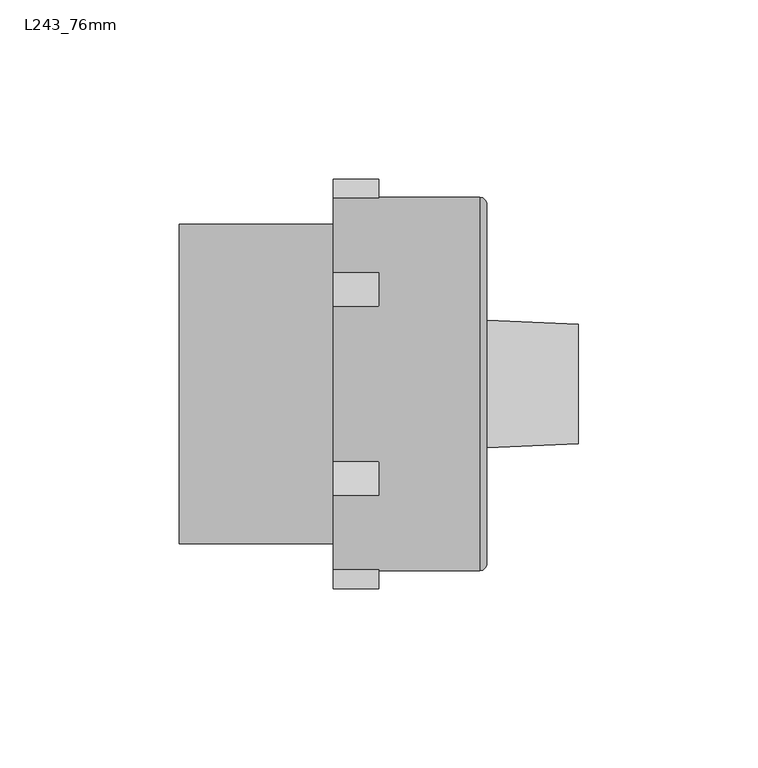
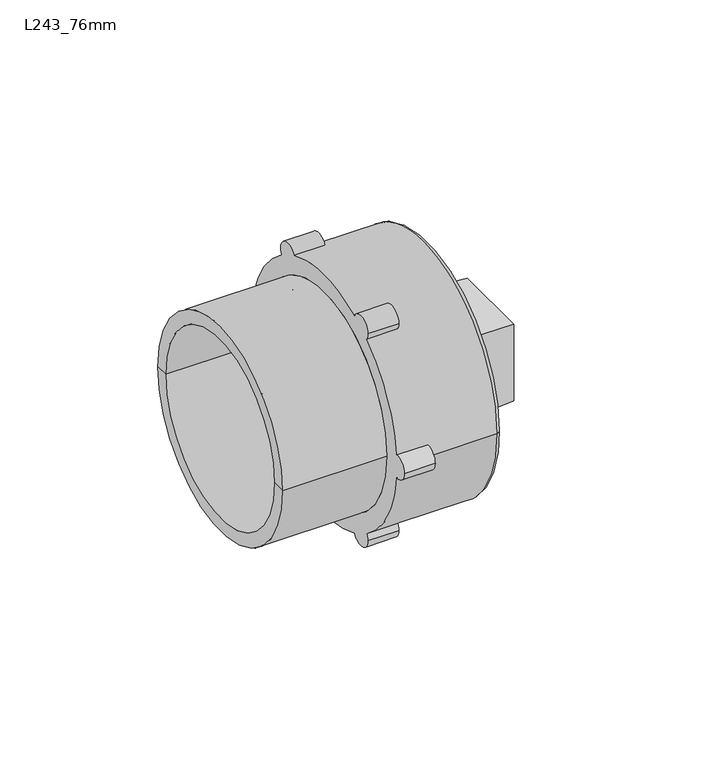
"""IFC4 building model written with IfcOpenShell, lengths in millimetres: pipe fitting geometry, Durapipe_PipeFitting_VulcatheneEnfusion_CleanoutPlug_L24 : L243_76mm."""

from ifc_helpers import new_model, si_unit, point, frame, origin, place, context, project, spatial, polyline, circle_curve, ellipse_curve, trimmed, source, transform, mapped, element, save
from ifc_brep_helpers import plane_surface, cylinder_surface, revolved_surface, advanced_brep


def l243_76mm_0481b0c5(model_context):
    return source(origin(), model_context, "Body", "AdvancedBrep", [
        advanced_brep(
        [(28.15, 52.0, 0.0), (28.15, -52.0, 0.0), (-0.05, -52.0, 0.0), (-0.05, -51.7596154, -4.9942182), (-12.75, -51.7596154, -4.9942182), (-12.75, -30.2049275, -42.3280327), (-0.05, -30.2049275, -42.3280327), (-0.05, -21.5546879, -47.3222509), (-12.75, -21.5546879, -47.3222509), (-12.75, 21.5546879, -47.3222509), (-0.05, 21.5546879, -47.3222509), (-0.05, 30.2049275, -42.3280327), (-12.75, 30.2049275, -42.3280327), (-12.75, 51.7596154, -4.9942182), (-0.05, 51.7596154, -4.9942182), (-0.05, 52.0, 0.0), (-0.05, 51.7596154, 4.9942182), (-12.75, 51.7596154, 4.9942182), (-12.75, 30.2049275, 42.3280327), (-0.05, 30.2049275, 42.3280327), (-0.05, 21.5546879, 47.3222509), (-12.75, 21.5546879, 47.3222509), (-12.75, -21.5546879, 47.3222509), (-0.05, -21.5546879, 47.3222509), (-0.05, -30.2049275, 42.3280327), (-12.75, -30.2049275, 42.3280327), (-12.75, -51.7596154, 4.9942182), (-0.05, -51.7596154, 4.9942182), (-12.75, 57.0, 0.0), (-12.75, 31.0, -45.033321), (-12.75, -31.0, -45.033321), (-12.75, -57.0, 0.0), (-12.75, -31.0, 45.033321), (-12.75, 31.0, 45.033321), (-12.75, -44.5, 0.0), (-12.75, 44.5, 0.0), (-55.55, -44.5, 0.0), (-55.55, 44.5, 0.0), (-55.55, -38.9, 0.0), (-55.55, 38.9, 0.0), (-12.75, -38.9, 0.0), (-12.75, 38.9, 0.0), (-12.75, 0.0, 0.0), (30.15, -50.0, 0.0), (30.15, 50.0, 0.0), (30.15, 17.7, 0.0), (30.15, 17.7, -17.7), (30.15, -17.7, -17.7), (30.15, -17.7, 0.0), (30.15, -17.7, 17.7), (30.15, 17.7, 17.7), (-0.05, -31.0, 45.033321), (-0.05, 31.0, 45.033321), (-0.05, 57.0, 0.0), (-0.05, -57.0, 0.0), (-0.05, -31.0, -45.033321), (-0.05, 31.0, -45.033321), (55.55, -16.5910121, 16.5910121), (55.55, -16.5910121, -16.5910121), (55.55, 16.5910121, -16.5910121), (55.55, 16.5910121, 16.5910121)],
        [
            (0, 1, circle_curve(frame((28.15, 0.0, 0.0), z_axis=(-1.0, 0.0, 0.0), x_axis=(0.0, 1.0, 0.0)), 52.0)),
            (1, 2),
            (2, 3, circle_curve(frame((-0.05, 0.0, 0.0), z_axis=(1.0, 0.0, 0.0), x_axis=(0.0, 1.0, 0.0)), 52.0)),
            (3, 4),
            (4, 5, circle_curve(frame((-12.75, 0.0, 0.0), z_axis=(1.0, 0.0, 0.0), x_axis=(0.0, 1.0, 0.0)), 52.0)),
            (5, 6),
            (6, 7, circle_curve(frame((-0.05, 0.0, 0.0), z_axis=(1.0, 0.0, 0.0), x_axis=(0.0, 1.0, 0.0)), 52.0)),
            (7, 8),
            (8, 9, circle_curve(frame((-12.75, 0.0, 0.0), z_axis=(1.0, 0.0, 0.0), x_axis=(0.0, 1.0, 0.0)), 52.0)),
            (9, 10),
            (10, 11, circle_curve(frame((-0.05, 0.0, 0.0), z_axis=(1.0, 0.0, 0.0), x_axis=(0.0, 1.0, 0.0)), 52.0)),
            (11, 12),
            (12, 13, circle_curve(frame((-12.75, 0.0, 0.0), z_axis=(1.0, 0.0, 0.0), x_axis=(0.0, 1.0, 0.0)), 52.0)),
            (13, 14),
            (14, 15, circle_curve(frame((-0.05, 0.0, 0.0), z_axis=(1.0, 0.0, 0.0), x_axis=(0.0, 1.0, 0.0)), 52.0)),
            (15, 0),
            (1, 0, circle_curve(frame((28.15, 0.0, 0.0), z_axis=(-1.0, 0.0, 0.0), x_axis=(0.0, 1.0, 0.0)), 52.0)),
            (15, 16, circle_curve(frame((-0.05, 0.0, 0.0), z_axis=(1.0, 0.0, 0.0), x_axis=(0.0, 1.0, 0.0)), 52.0)),
            (16, 17),
            (17, 18, circle_curve(frame((-12.75, 0.0, 0.0), z_axis=(1.0, 0.0, 0.0), x_axis=(0.0, 1.0, 0.0)), 52.0)),
            (18, 19),
            (19, 20, circle_curve(frame((-0.05, 0.0, 0.0), z_axis=(1.0, 0.0, 0.0), x_axis=(0.0, 1.0, 0.0)), 52.0)),
            (20, 21),
            (21, 22, circle_curve(frame((-12.75, 0.0, 0.0), z_axis=(1.0, 0.0, 0.0), x_axis=(0.0, 1.0, 0.0)), 52.0)),
            (22, 23),
            (23, 24, circle_curve(frame((-0.05, 0.0, 0.0), z_axis=(1.0, 0.0, 0.0), x_axis=(0.0, 1.0, 0.0)), 52.0)),
            (24, 25),
            (25, 26, circle_curve(frame((-12.75, 0.0, 0.0), z_axis=(1.0, 0.0, 0.0), x_axis=(0.0, 1.0, 0.0)), 52.0)),
            (26, 27),
            (27, 2, circle_curve(frame((-0.05, 0.0, 0.0), z_axis=(1.0, 0.0, 0.0), x_axis=(0.0, 1.0, 0.0)), 52.0)),
            (28, 13, circle_curve(frame((-12.75, 52.0, 0.0), z_axis=(-1.0, 0.0, 0.0), x_axis=(0.0, 1.0, 0.0)), 5.0)),
            (12, 29, circle_curve(frame((-12.75, 26.0, -45.033321), z_axis=(-1.0, 0.0, 0.0), x_axis=(0.0, 1.0, 0.0)), 5.0)),
            (29, 9, circle_curve(frame((-12.75, 26.0, -45.033321), z_axis=(-1.0, 0.0, 0.0), x_axis=(0.0, 1.0, 0.0)), 5.0)),
            (8, 30, circle_curve(frame((-12.75, -26.0, -45.033321), z_axis=(-1.0, 0.0, 0.0), x_axis=(0.0, 1.0, 0.0)), 5.0)),
            (30, 5, circle_curve(frame((-12.75, -26.0, -45.033321), z_axis=(-1.0, 0.0, 0.0), x_axis=(0.0, 1.0, 0.0)), 5.0)),
            (4, 31, circle_curve(frame((-12.75, -52.0, 0.0), z_axis=(-1.0, 0.0, 0.0), x_axis=(0.0, 1.0, 0.0)), 5.0)),
            (31, 26, circle_curve(frame((-12.75, -52.0, 0.0), z_axis=(-1.0, 0.0, 0.0), x_axis=(0.0, 1.0, 0.0)), 5.0)),
            (25, 32, circle_curve(frame((-12.75, -26.0, 45.033321), z_axis=(-1.0, 0.0, 0.0), x_axis=(0.0, 1.0, 0.0)), 5.0)),
            (32, 22, circle_curve(frame((-12.75, -26.0, 45.033321), z_axis=(-1.0, 0.0, 0.0), x_axis=(0.0, 1.0, 0.0)), 5.0)),
            (21, 33, circle_curve(frame((-12.75, 26.0, 45.033321), z_axis=(-1.0, 0.0, 0.0), x_axis=(0.0, 1.0, 0.0)), 5.0)),
            (33, 18, circle_curve(frame((-12.75, 26.0, 45.033321), z_axis=(-1.0, 0.0, 0.0), x_axis=(0.0, 1.0, 0.0)), 5.0)),
            (17, 28, circle_curve(frame((-12.75, 52.0, 0.0), z_axis=(-1.0, 0.0, 0.0), x_axis=(0.0, 1.0, 0.0)), 5.0)),
            (34, 35, circle_curve(frame((-12.75, 0.0, 0.0), z_axis=(1.0, 0.0, 0.0), x_axis=(0.0, 1.0, 0.0)), 44.5)),
            (35, 34, circle_curve(frame((-12.75, 0.0, 0.0), z_axis=(1.0, 0.0, 0.0), x_axis=(0.0, 1.0, 0.0)), 44.5)),
            (34, 36),
            (36, 37, circle_curve(frame((-55.55, 0.0, 0.0), z_axis=(1.0, 0.0, 0.0), x_axis=(0.0, 1.0, 0.0)), 44.5)),
            (37, 35),
            (37, 36, circle_curve(frame((-55.55, 0.0, 0.0), z_axis=(1.0, 0.0, 0.0), x_axis=(0.0, 1.0, 0.0)), 44.5)),
            (36, 38),
            (38, 39, circle_curve(frame((-55.55, 0.0, 0.0), z_axis=(1.0, 0.0, 0.0), x_axis=(0.0, 1.0, 0.0)), 38.9)),
            (39, 37),
            (39, 38, circle_curve(frame((-55.55, 0.0, 0.0), z_axis=(1.0, 0.0, 0.0), x_axis=(0.0, 1.0, 0.0)), 38.9)),
            (38, 40),
            (40, 41, circle_curve(frame((-12.75, 0.0, 0.0), z_axis=(1.0, 0.0, 0.0), x_axis=(0.0, 1.0, 0.0)), 38.9)),
            (41, 39),
            (41, 40, circle_curve(frame((-12.75, 0.0, 0.0), z_axis=(1.0, 0.0, 0.0), x_axis=(0.0, 1.0, 0.0)), 38.9)),
            (40, 42),
            (42, 41),
            (43, 44, circle_curve(frame((30.15, 0.0, 0.0), z_axis=(1.0, 0.0, 0.0), x_axis=(0.0, 1.0, 0.0)), 50.0)),
            (44, 45),
            (45, 46),
            (46, 47),
            (47, 48),
            (48, 43),
            (44, 43, circle_curve(frame((30.15, 0.0, 0.0), z_axis=(1.0, 0.0, 0.0), x_axis=(0.0, -1.0, 0.0)), 50.0)),
            (48, 49),
            (49, 50),
            (50, 45),
            (43, 1, circle_curve(frame((28.15, -50.0, 0.0), z_axis=(0.0, 0.0, -1.0), x_axis=(0.0, -1.0, 0.0)), 2.0)),
            (0, 44, circle_curve(frame((28.15, 50.0, 0.0), z_axis=(0.0, 0.0, -1.0), x_axis=(0.0, 1.0, 0.0)), 2.0)),
            (51, 24, circle_curve(frame((-0.05, -26.0, 45.033321), z_axis=(1.0, 0.0, 0.0), x_axis=(0.0, 1.0, 0.0)), 5.0)),
            (23, 51, circle_curve(frame((-0.05, -26.0, 45.033321), z_axis=(1.0, 0.0, 0.0), x_axis=(0.0, 1.0, 0.0)), 5.0)),
            (19, 52, circle_curve(frame((-0.05, 26.0, 45.033321), z_axis=(1.0, 0.0, 0.0), x_axis=(0.0, 1.0, 0.0)), 5.0)),
            (52, 20, circle_curve(frame((-0.05, 26.0, 45.033321), z_axis=(1.0, 0.0, 0.0), x_axis=(0.0, 1.0, 0.0)), 5.0)),
            (14, 53, circle_curve(frame((-0.05, 52.0, 0.0), z_axis=(1.0, 0.0, 0.0), x_axis=(0.0, 1.0, 0.0)), 5.0)),
            (53, 16, circle_curve(frame((-0.05, 52.0, 0.0), z_axis=(1.0, 0.0, 0.0), x_axis=(0.0, 1.0, 0.0)), 5.0)),
            (54, 3, circle_curve(frame((-0.05, -52.0, 0.0), z_axis=(1.0, 0.0, 0.0), x_axis=(0.0, 1.0, 0.0)), 5.0)),
            (27, 54, circle_curve(frame((-0.05, -52.0, 0.0), z_axis=(1.0, 0.0, 0.0), x_axis=(0.0, 1.0, 0.0)), 5.0)),
            (55, 7, circle_curve(frame((-0.05, -26.0, -45.033321), z_axis=(1.0, 0.0, 0.0), x_axis=(0.0, 1.0, 0.0)), 5.0)),
            (6, 55, circle_curve(frame((-0.05, -26.0, -45.033321), z_axis=(1.0, 0.0, 0.0), x_axis=(0.0, 1.0, 0.0)), 5.0)),
            (10, 56, circle_curve(frame((-0.05, 26.0, -45.033321), z_axis=(1.0, 0.0, 0.0), x_axis=(0.0, 1.0, 0.0)), 5.0)),
            (56, 11, circle_curve(frame((-0.05, 26.0, -45.033321), z_axis=(1.0, 0.0, 0.0), x_axis=(0.0, 1.0, 0.0)), 5.0)),
            (51, 32),
            (33, 52),
            (28, 53),
            (54, 31),
            (55, 30),
            (29, 56),
            (57, 58),
            (58, 59),
            (59, 60),
            (60, 57),
            (47, 58),
            (57, 49),
            (46, 59),
            (50, 60),
        ],
        [
            cylinder_surface(frame((1580.9018184, 0.0, 0.0), z_axis=(-1.0, 0.0, 0.0), x_axis=(0.0, 1.0, 0.0)), 52.0),
            plane_surface(frame((-12.75, 0.0, 0.0), z_axis=(-1.0, 0.0, 0.0), x_axis=(0.0, 1.0, 0.0))),
            cylinder_surface(frame((1580.9018184, 0.0, 0.0), z_axis=(-1.0, 0.0, 0.0), x_axis=(0.0, 1.0, 0.0)), 44.5),
            plane_surface(frame((-55.55, 0.0, 0.0), z_axis=(-1.0, 0.0, 0.0), x_axis=(0.0, 1.0, 0.0))),
            revolved_surface(polyline([(-55.549999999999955, 38.9, 0.0), (-12.75, 38.9, 0.0)]), (1580.9018184, 0.0, 0.0), (-1.0, 0.0, 0.0)),
            plane_surface(frame((30.15, 0.0, 0.0), z_axis=(1.0, 0.0, 0.0), x_axis=(0.0, 1.0, 0.0))),
            revolved_surface(trimmed(ellipse_curve(frame((28.15, 50.0, 0.0), z_axis=(0.0, 0.0, 1.0), x_axis=(0.0, 1.0, 0.0)), 2.0, 2.0), [point((30.15, 50.0, 0.0))], [point((28.15, 52.0, 0.0))], True, "CARTESIAN"), (30.15, 0.0, 0.0), (-1.0, 0.0, 0.0)),
            revolved_surface(trimmed(ellipse_curve(frame((28.15, -50.0, 0.0), z_axis=(0.0, 0.0, -1.0), x_axis=(0.0, -1.0, 0.0)), 2.0, 2.0), [point((30.15, -50.0, 0.0))], [point((28.15, -52.0, 0.0))], True, "CARTESIAN"), (30.15, 0.0, 0.0), (-1.0, 0.0, 0.0)),
            plane_surface(frame((-0.05, -21.0, 45.033321), z_axis=(1.0, 0.0, 0.0), x_axis=(0.0, 0.0, 1.0))),
            cylinder_surface(frame((-12.75, -26.0, 45.033321), z_axis=(1.0, 0.0, 0.0), x_axis=(0.0, 1.0, 0.0)), 5.0),
            cylinder_surface(frame((0.0, 26.0, 45.033321), z_axis=(1.0, 0.0, 0.0), x_axis=(0.0, 1.0, 0.0)), 5.0),
            cylinder_surface(frame((0.0, 52.0, 0.0), z_axis=(1.0, 0.0, 0.0), x_axis=(0.0, 1.0, 0.0)), 5.0),
            cylinder_surface(frame((0.0, -52.0, 0.0), z_axis=(1.0, 0.0, 0.0), x_axis=(0.0, 1.0, 0.0)), 5.0),
            cylinder_surface(frame((0.0, -26.0, -45.033321), z_axis=(1.0, 0.0, 0.0), x_axis=(0.0, 1.0, 0.0)), 5.0),
            cylinder_surface(frame((0.0, 26.0, -45.033321), z_axis=(1.0, 0.0, 0.0), x_axis=(0.0, 1.0, 0.0)), 5.0),
            plane_surface(frame((55.55, -17.7, 17.7), z_axis=(1.0, 0.0, 0.0), x_axis=(0.0, -1.0, 0.0))),
            plane_surface(frame((55.55, -16.5910121, 16.5910121), z_axis=(0.0436193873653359, -0.9990482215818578, 0.0), x_axis=(0.0, 0.0, -1.0))),
            plane_surface(frame((55.55, -16.5910121, -16.5910121), z_axis=(0.0436193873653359, 0.0, -0.9990482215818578), x_axis=(0.0, 1.0, 0.0))),
            plane_surface(frame((55.55, 16.5910121, -16.5910121), z_axis=(0.0436193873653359, 0.9990482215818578, 0.0), x_axis=(0.0, 0.0, 1.0))),
            plane_surface(frame((55.55, 16.5910121, 16.5910121), z_axis=(0.0436193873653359, 0.0, 0.9990482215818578), x_axis=(0.0, -1.0, 0.0))),
        ],
        [
            (0, [[1, 2, 3, 4, 5, 6, 7, 8, 9, 10, 11, 12, 13, 14, 15, 16]]),
            (0, [[17, -16, 18, 19, 20, 21, 22, 23, 24, 25, 26, 27, 28, 29, 30, -2]]),
            (1, [[31, -13, 32, 33, -9, 34, 35, -5, 36, 37, -28, 38, 39, -24, 40, 41, -20, 42], [43, 44]]),
            (2, [[-43, 45, 46, 47]]),
            (2, [[-44, -47, 48, -45]]),
            (3, [[-46, 49, 50, 51]]),
            (3, [[-48, -51, 52, -49]]),
            (4, [[-50, 53, 54, 55]]),
            (4, [[-52, -55, 56, -53]]),
            (1, [[-54, 57, 58]]),
            (1, [[-56, -58, -57]]),
            (5, [[59, 60, 61, 62, 63, 64]]),
            (5, [[65, -64, 66, 67, 68, -60]]),
            (6, [[69, -1, 70, -59]]),
            (7, [[-69, -65, -70, -17]]),
            (8, [[71, -26, 72]]),
            (8, [[73, 74, -22]]),
            (8, [[75, 76, -18, -15]]),
            (8, [[77, -3, -30, 78]]),
            (8, [[79, -7, 80]]),
            (8, [[81, 82, -11]]),
            (9, [[83, -38, -27, -71]]),
            (9, [[-83, -72, -25, -39]]),
            (10, [[84, -73, -21, -41]]),
            (10, [[-84, -40, -23, -74]]),
            (11, [[85, -75, -14, -31]]),
            (11, [[-85, -42, -19, -76]]),
            (12, [[86, -36, -4, -77]]),
            (12, [[-86, -78, -29, -37]]),
            (13, [[87, -34, -8, -79]]),
            (13, [[-87, -80, -6, -35]]),
            (14, [[88, -81, -10, -33]]),
            (14, [[-88, -32, -12, -82]]),
            (15, [[89, 90, 91, 92]]),
            (16, [[93, -89, 94, -66, -63]]),
            (17, [[-93, -62, 95, -90]]),
            (18, [[-95, -61, -68, 96, -91]]),
            (19, [[-94, -92, -96, -67]]),
        ],
    ),
    ])


if __name__ == "__main__":
    model = new_model("IFC4")
    model_context = context("Model", 3, world=origin())
    ifc_project = project(units=[si_unit("LENGTHUNIT", "METRE", prefix="MILLI")], contexts=[model_context])
    site = spatial("IfcSite", under=ifc_project)
    building = spatial("IfcBuilding", under=site)
    placement = place(None, origin())
    l243_76mm_shape = l243_76mm_0481b0c5(model_context)
    element("IfcPipeFitting", 1, ObjectType="Durapipe_PipeFitting_VulcatheneEnfusion_CleanoutPlug_L24 : L243_76mm", at=placement, inside=building, context=model_context, shape_type="MappedRepresentation", body=[
        mapped(l243_76mm_shape, transform((0.0, 0.0, 0.0), x_axis=(1.0, 0.0, 0.0), y_axis=(0.0, 1.0, 0.0), z_axis=(0.0, 0.0, 1.0))),
    ])
    save(model, "model.ifc")
